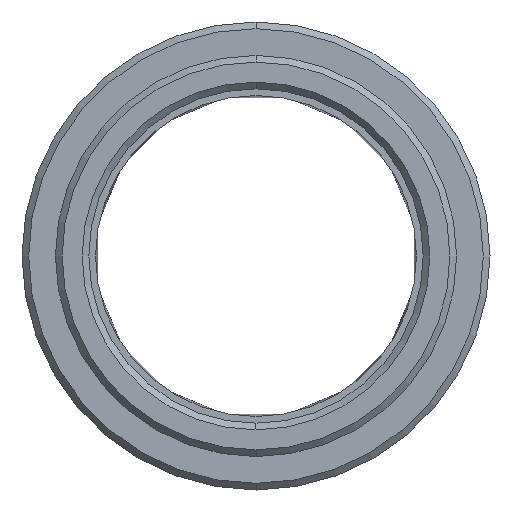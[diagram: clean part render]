
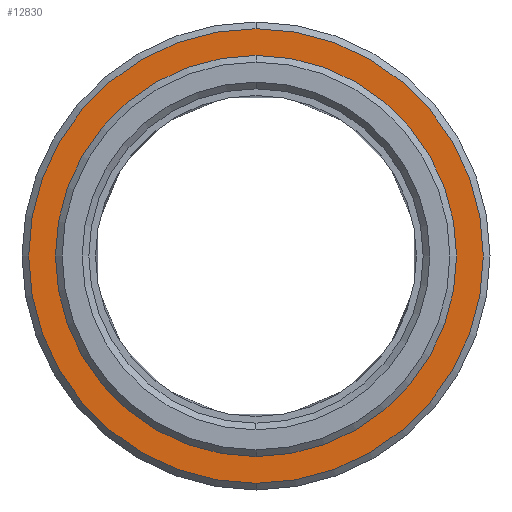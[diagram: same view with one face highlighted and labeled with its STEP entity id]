
A CAD part, left-side view. The second image highlights one B-rep face of the part: STEP entity #12830.
In plain terms, the highlighted planar face has unit normal (-1, 0, 0).
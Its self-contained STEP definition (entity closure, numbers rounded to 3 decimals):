
#5096=CARTESIAN_POINT('',(0.,0.,0.));
#5097=DIRECTION('',(1.,0.,0.));
#5098=DIRECTION('',(0.,0.,1.));
#5099=AXIS2_PLACEMENT_3D('',#5096,#5097,#5098);
#5101=CARTESIAN_POINT('',(0.,0.,0.));
#5102=DIRECTION('',(-1.,0.,0.));
#5103=DIRECTION('',(0.,0.,1.));
#5104=AXIS2_PLACEMENT_3D('',#5101,#5102,#5103);
#5106=CARTESIAN_POINT('',(0.,0.,
0.));
#5107=DIRECTION('',(1.,0.,0.));
#5108=DIRECTION('',(0.,0.,-1.));
#5109=AXIS2_PLACEMENT_3D('',#5106,#5107,#5108);
#5111=CARTESIAN_POINT('',(0.,0.,
0.));
#5112=DIRECTION('',(1.,0.,0.));
#5113=DIRECTION('',(0.,0.,1.));
#5114=AXIS2_PLACEMENT_3D('',#5111,#5112,#5113);
#10378=CARTESIAN_POINT('',(0.,0.,-17.));
#10379=CARTESIAN_POINT('',(0.,0.,17.));
#10380=VERTEX_POINT('',#10378);
#10381=VERTEX_POINT('',#10379);
#10756=CARTESIAN_POINT('',(0.,0.,15.));
#10757=CARTESIAN_POINT('',(0.,0.,-15.));
#10758=VERTEX_POINT('',#10756);
#10759=VERTEX_POINT('',#10757);
#12815=CARTESIAN_POINT('',(0.,0.,0.));
#12816=DIRECTION('',(1.,0.,0.));
#12817=DIRECTION('',(0.,0.,1.));
#12818=AXIS2_PLACEMENT_3D('',#12815,#12816,#12817);
#12819=PLANE('',#12818);
#12821=ORIENTED_EDGE('',*,*,#12820,.T.);
#12823=ORIENTED_EDGE('',*,*,#12822,.T.);
#12824=EDGE_LOOP('',(#12821,#12823));
#12825=FACE_OUTER_BOUND('',#12824,.F.);
#12826=ORIENTED_EDGE('',*,*,#12797,.F.);
#12827=ORIENTED_EDGE('',*,*,#12782,.T.);
#12828=EDGE_LOOP('',(#12826,#12827));
#12829=FACE_BOUND('',#12828,.F.);
#12830=ADVANCED_FACE('',(#12825,#12829),#12819,.F.);
#5100=CIRCLE('',#5099,15.);
#5105=CIRCLE('',#5104,15.);
#5110=CIRCLE('',#5109,17.);
#5115=CIRCLE('',#5114,17.);
#12782=EDGE_CURVE('',#10758,#10759,#5105,.T.);
#12797=EDGE_CURVE('',#10758,#10759,#5100,.T.);
#12820=EDGE_CURVE('',#10380,#10381,#5110,.T.);
#12822=EDGE_CURVE('',#10381,#10380,#5115,.T.);
